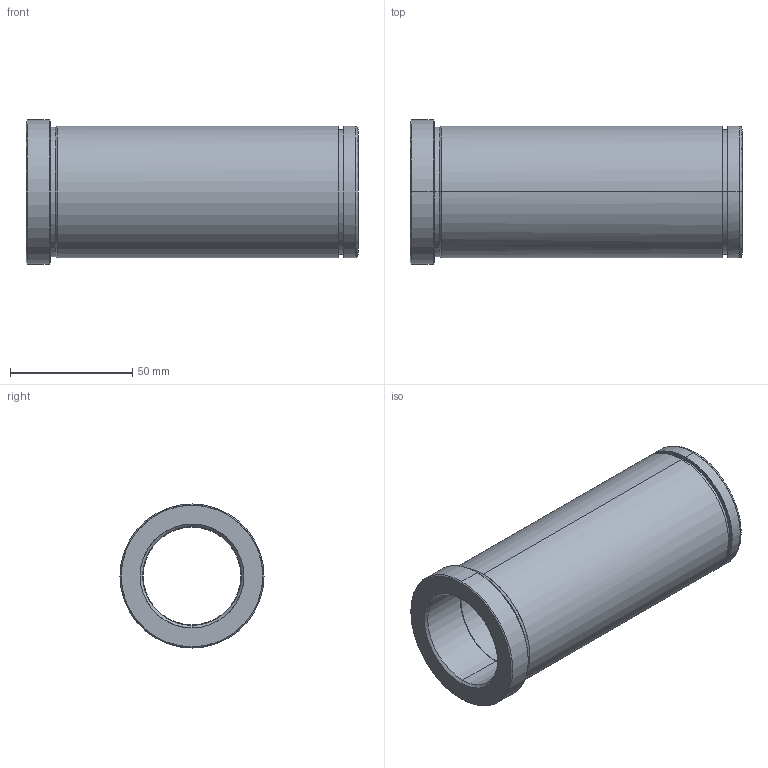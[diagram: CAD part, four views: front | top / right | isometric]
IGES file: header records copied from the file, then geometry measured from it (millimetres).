
Start section: START RECORD GO HERE.
Global section: file name: 553-40X136.igs; native system: DASSAULT SYSTEMES CATIA V5 R20 - www.3ds.com; preprocessor: CATIA Version 5 Release 20 ; author: Utente; organization: NB04-ASUS; date: 20210603.202444; units: millimetre
Bounding box: 136 x 59 x 59 mm (x, y, z)
Surface area: 43476.2 mm2 (no closed solid volume)
Topology: 0 solids, 0 shells, 32 faces, 204 edges, 204 vertices
Faces by surface type: revolution 26, plane 6
